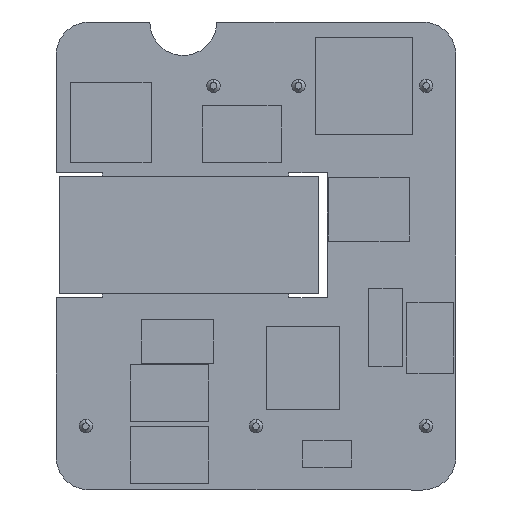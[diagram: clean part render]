
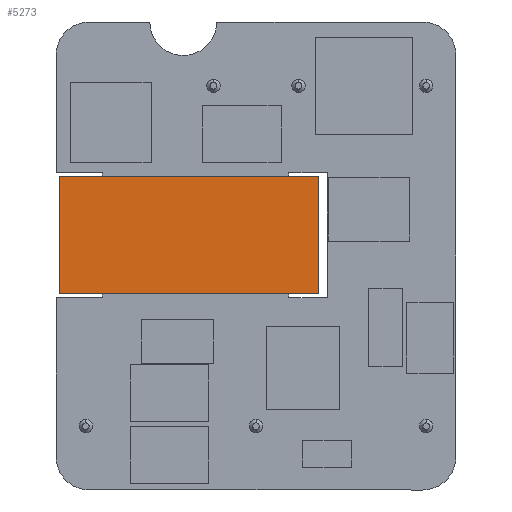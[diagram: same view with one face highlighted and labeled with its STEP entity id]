
A CAD part, front view. The second image highlights one B-rep face of the part: STEP entity #5273.
In plain terms, the highlighted planar face has unit normal (0, -1, 0).
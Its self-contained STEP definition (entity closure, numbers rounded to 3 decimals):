
#361 = EDGE_LOOP ( 'NONE', ( #10874, #14697, #7946, #1669 ) ) ;
#485 = PLANE ( 'NONE',  #16079 ) ;
#1114 = VECTOR ( 'NONE', #14436, 1000. ) ;
#1514 = LINE ( 'NONE', #6384, #1114 ) ;
#1669 = ORIENTED_EDGE ( 'NONE', *, *, #16212, .F. ) ;
#1717 = DIRECTION ( 'NONE',  ( 0., 0., 1. ) ) ;
#2031 = VERTEX_POINT ( 'NONE', #7923 ) ;
#2403 = CARTESIAN_POINT ( 'NONE',  ( 180.207, -3.125, -15.807 ) ) ;
#2921 = VECTOR ( 'NONE', #11814, 1000. ) ;
#3130 = CARTESIAN_POINT ( 'NONE',  ( 164.707, -3.125, -15.807 ) ) ;
#3612 = CARTESIAN_POINT ( 'NONE',  ( 180.207, -3.125, -15.807 ) ) ;
#3895 = EDGE_CURVE ( 'NONE', #17217, #2031, #4773, .T. ) ;
#4773 = LINE ( 'NONE', #3130, #13587 ) ;
#5265 = CARTESIAN_POINT ( 'NONE',  ( 180.207, -3.125, -8.807 ) ) ;
#5273 = ADVANCED_FACE ( 'NONE', ( #15341 ), #485, .F. ) ;
#5941 = CARTESIAN_POINT ( 'NONE',  ( 164.707, -3.125, -8.807 ) ) ;
#6004 = CARTESIAN_POINT ( 'NONE',  ( 164.707, -3.125, -15.807 ) ) ;
#6384 = CARTESIAN_POINT ( 'NONE',  ( 164.707, -3.125, -8.807 ) ) ;
#6510 = LINE ( 'NONE', #2403, #2921 ) ;
#7183 = EDGE_CURVE ( 'NONE', #14929, #16166, #6510, .T. ) ;
#7283 = DIRECTION ( 'NONE',  ( 0., 0., 1. ) ) ;
#7923 = CARTESIAN_POINT ( 'NONE',  ( 164.707, -3.125, -8.807 ) ) ;
#7946 = ORIENTED_EDGE ( 'NONE', *, *, #7183, .F. ) ;
#8293 = DIRECTION ( 'NONE',  ( -1., 0., 0. ) ) ;
#10874 = ORIENTED_EDGE ( 'NONE', *, *, #3895, .F. ) ;
#11814 = DIRECTION ( 'NONE',  ( 0., 0., -1. ) ) ;
#12616 = EDGE_CURVE ( 'NONE', #16166, #17217, #17287, .T. ) ;
#13587 = VECTOR ( 'NONE', #1717, 1000. ) ;
#13657 = VECTOR ( 'NONE', #8293, 1000. ) ;
#14436 = DIRECTION ( 'NONE',  ( 1., 0., 0. ) ) ;
#14697 = ORIENTED_EDGE ( 'NONE', *, *, #12616, .F. ) ;
#14929 = VERTEX_POINT ( 'NONE', #5265 ) ;
#15320 = DIRECTION ( 'NONE',  ( 0., 1., 0. ) ) ;
#15341 = FACE_OUTER_BOUND ( 'NONE', #361, .T. ) ;
#16079 = AXIS2_PLACEMENT_3D ( 'NONE', #5941, #15320, #7283 ) ;
#16166 = VERTEX_POINT ( 'NONE', #3612 ) ;
#16212 = EDGE_CURVE ( 'NONE', #2031, #14929, #1514, .T. ) ;
#16373 = CARTESIAN_POINT ( 'NONE',  ( 164.707, -3.125, -15.807 ) ) ;
#17217 = VERTEX_POINT ( 'NONE', #6004 ) ;
#17287 = LINE ( 'NONE', #16373, #13657 ) ;
